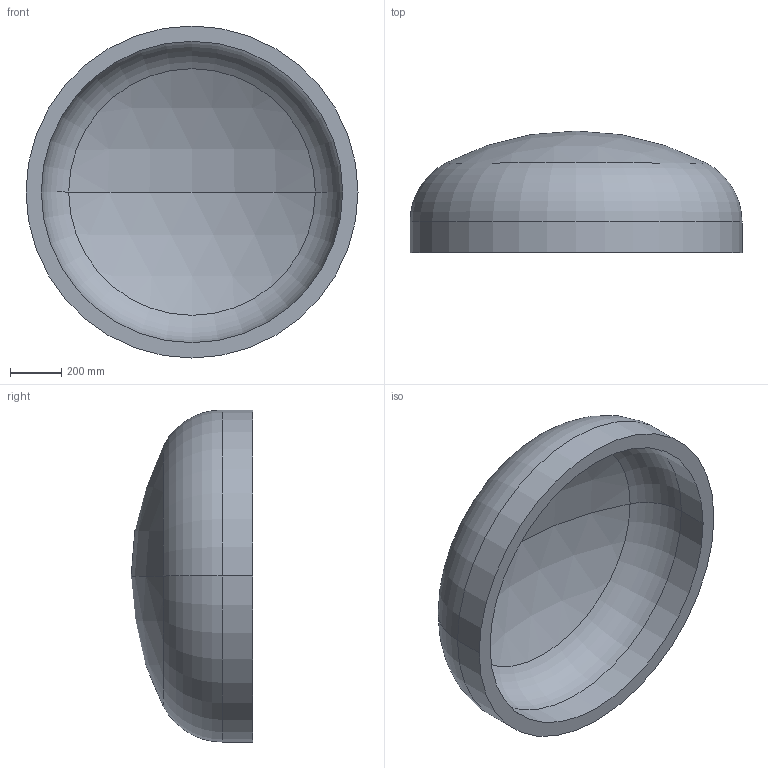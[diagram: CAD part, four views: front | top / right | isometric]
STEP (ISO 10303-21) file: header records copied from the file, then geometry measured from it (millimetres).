
FILE_DESCRIPTION (( 'STEP AP203' ), '1' );
FILE_NAME ('DIN 28013 Korbbogenform_-_Boden DIN 28013 - 1300 x 120 - I - s=60.step', '2016-07-01T09:56:07', ( '' ), ( '' ), 'SwSTEP 2.0', 'SolidWorks 2013', '' );
FILE_SCHEMA (( 'CONFIG_CONTROL_DESIGN' ));
Length unit declared in the file: millimetre
Products named in the file (1): DIN 28013 Korbbogenform_-_Boden DIN 28013 - 1300 x 120 - I - s=60
Bounding box: 1300 x 476.02 x 1300 mm (x, y, z)
Volume: 131955226.1 mm3; surface area: 4639780.8 mm2
Topology: 1 solids, 1 shells, 13 faces, 24 edges, 14 vertices
Faces by surface type: torus 4, cylinder 4, sphere 4, plane 1
Entity records: 407 total; most frequent: DIRECTION 72, CARTESIAN_POINT 52, ORIENTED_EDGE 48, AXIS2_PLACEMENT_3D 34, EDGE_CURVE 24, CIRCLE 20, VERTEX_POINT 14, EDGE_LOOP 14
